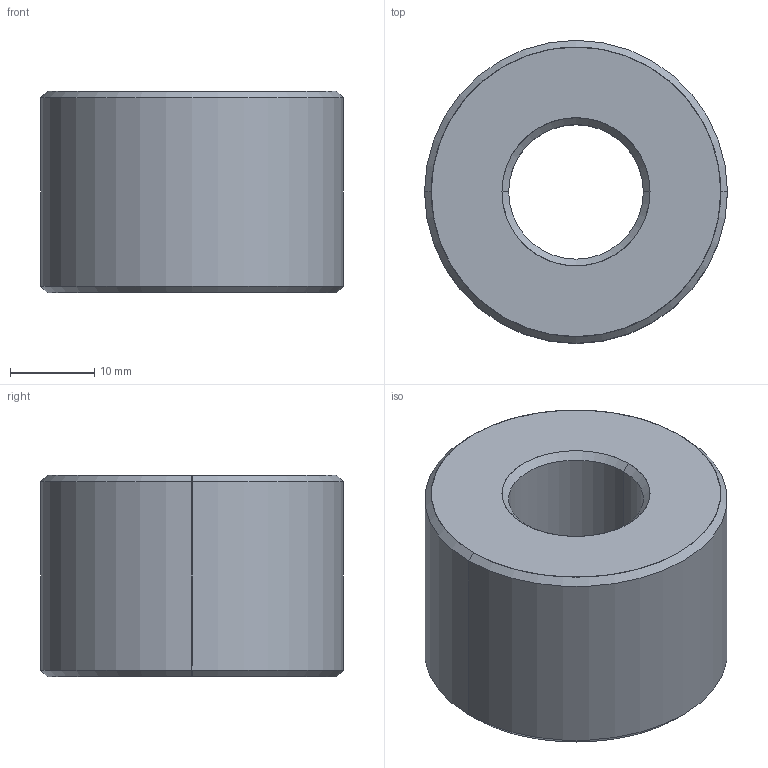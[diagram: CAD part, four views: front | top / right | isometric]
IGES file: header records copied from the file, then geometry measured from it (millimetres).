
Start section: SolidWorks IGES file using analytic representation for surfaces
Global section: file name: C:\Users\ianosborn\Desktop\L1339_v2\L1339_v2_20241024_IGES\L1339.R16-08.igs; native system: SolidWorks 2019; preprocessor: SolidWorks 2019; author: IanOsborn; date: 241024.150913; units: millimetre
Bounding box: 36 x 36 x 24 mm (x, y, z)
Surface area: 5401.2 mm2 (no closed solid volume)
Topology: 0 solids, 0 shells, 14 faces, 240 edges, 240 vertices
Faces by surface type: revolution 12, bspline 2
